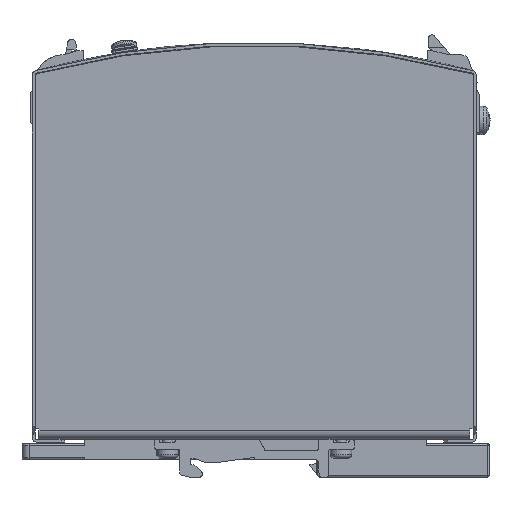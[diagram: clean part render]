
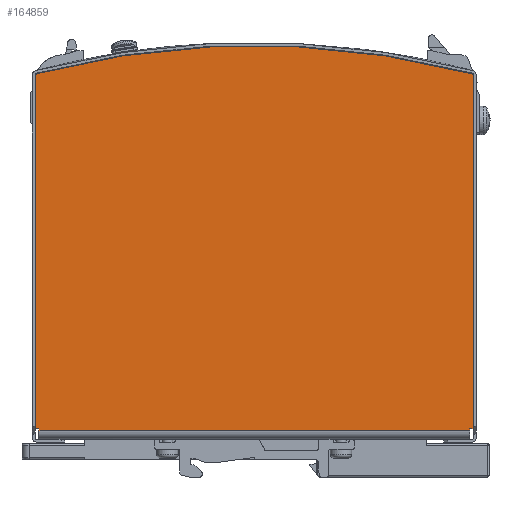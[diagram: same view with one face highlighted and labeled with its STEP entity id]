
A CAD part, front view. The second image highlights one B-rep face of the part: STEP entity #164859.
In plain terms, the highlighted planar face has unit normal (0, -1, 0).
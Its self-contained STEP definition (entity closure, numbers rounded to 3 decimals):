
#164188=CARTESIAN_POINT('',(60.15,-30.,3.));
#164189=VERTEX_POINT('',#164188);
#164196=CARTESIAN_POINT('',(60.15,-30.0,2.5));
#164197=VERTEX_POINT('',#164196);
#164198=CARTESIAN_POINT('',(60.15,-30.0,2.5));
#164199=DIRECTION('',(0.0,0.,1.0));
#164200=VECTOR('',#164199,0.5);
#164201=LINE('',#164198,#164200);
#164202=EDGE_CURVE('',#164197,#164189,#164201,.T.);
#164434=CARTESIAN_POINT('',(-60.15,-30.0,2.5));
#164435=VERTEX_POINT('',#164434);
#164443=CARTESIAN_POINT('',(-60.15,-30.,3.));
#164444=VERTEX_POINT('',#164443);
#164445=CARTESIAN_POINT('',(-60.15,-30.,3.));
#164446=DIRECTION('',(0.0,0.0,-1.0));
#164447=VECTOR('',#164446,0.5);
#164448=LINE('',#164445,#164447);
#164449=EDGE_CURVE('',#164444,#164435,#164448,.T.);
#164641=CARTESIAN_POINT('',(60.15,-30.0,2.5));
#164642=DIRECTION('',(-1.0,0.0,0.0));
#164643=VECTOR('',#164642,120.3);
#164644=LINE('',#164641,#164643);
#164645=EDGE_CURVE('',#164197,#164435,#164644,.T.);
#164656=CARTESIAN_POINT('',(61.15,-30.,3.));
#164657=VERTEX_POINT('',#164656);
#164658=CARTESIAN_POINT('',(60.15,-30.,3.));
#164659=DIRECTION('',(1.0,0.,0.0));
#164660=VECTOR('',#164659,1.);
#164661=LINE('',#164658,#164660);
#164662=EDGE_CURVE('',#164189,#164657,#164661,.T.);
#164799=CARTESIAN_POINT('',(-61.15,-30.0,1.5));
#164800=DIRECTION('',(0.0,-1.0,0.0));
#164801=DIRECTION('',(0.0,0.0,-1.0));
#164802=AXIS2_PLACEMENT_3D('',#164799,#164800,#164801);
#164803=PLANE('',#164802);
#164804=ORIENTED_EDGE('',*,*,#164202,.T.);
#164805=ORIENTED_EDGE('',*,*,#164662,.T.);
#164806=CARTESIAN_POINT('',(61.15,-30.,101.693));
#164807=VERTEX_POINT('',#164806);
#164808=CARTESIAN_POINT('',(61.15,-30.,3.));
#164809=DIRECTION('',(0.0,0.0,1.0));
#164810=VECTOR('',#164809,98.693);
#164811=LINE('',#164808,#164810);
#164812=EDGE_CURVE('',#164657,#164807,#164811,.T.);
#164813=ORIENTED_EDGE('',*,*,#164812,.T.);
#164814=CARTESIAN_POINT('',(60.777,-30.,102.177));
#164815=VERTEX_POINT('',#164814);
#164816=CARTESIAN_POINT('',(60.65,-30.,101.693));
#164817=DIRECTION('',(0.0,-1.0,0.0));
#164818=DIRECTION('',(0.0,0.0,-1.0));
#164819=AXIS2_PLACEMENT_3D('',#164816,#164817,#164818);
#164820=CIRCLE('',#164819,0.5);
#164821=EDGE_CURVE('',#164807,#164815,#164820,.T.);
#164822=ORIENTED_EDGE('',*,*,#164821,.T.);
#164823=CARTESIAN_POINT('',(-60.777,-30.,102.177));
#164824=VERTEX_POINT('',#164823);
#164825=CARTESIAN_POINT('',(0.,-30.,-130.0));
#164826=DIRECTION('',(0.0,1.0,0.0));
#164827=DIRECTION('',(0.0,0.0,-1.0));
#164828=AXIS2_PLACEMENT_3D('',#164825,#164826,#164827);
#164829=CIRCLE('',#164828,240.0);
#164830=EDGE_CURVE('',#164824,#164815,#164829,.T.);
#164831=ORIENTED_EDGE('',*,*,#164830,.F.);
#164832=CARTESIAN_POINT('',(-61.15,-30.,101.693));
#164833=VERTEX_POINT('',#164832);
#164834=CARTESIAN_POINT('',(-60.65,-30.,101.693));
#164835=DIRECTION('',(0.0,-1.0,0.0));
#164836=DIRECTION('',(0.0,0.0,-1.0));
#164837=AXIS2_PLACEMENT_3D('',#164834,#164835,#164836);
#164838=CIRCLE('',#164837,0.5);
#164839=EDGE_CURVE('',#164824,#164833,#164838,.T.);
#164840=ORIENTED_EDGE('',*,*,#164839,.T.);
#164841=CARTESIAN_POINT('',(-61.15,-30.,3.));
#164842=VERTEX_POINT('',#164841);
#164843=CARTESIAN_POINT('',(-61.15,-30.,101.693));
#164844=DIRECTION('',(0.0,0.0,-1.0));
#164845=VECTOR('',#164844,98.693);
#164846=LINE('',#164843,#164845);
#164847=EDGE_CURVE('',#164833,#164842,#164846,.T.);
#164848=ORIENTED_EDGE('',*,*,#164847,.T.);
#164849=CARTESIAN_POINT('',(-61.15,-30.,3.));
#164850=DIRECTION('',(1.0,0.,0.));
#164851=VECTOR('',#164850,1.0);
#164852=LINE('',#164849,#164851);
#164853=EDGE_CURVE('',#164842,#164444,#164852,.T.);
#164854=ORIENTED_EDGE('',*,*,#164853,.T.);
#164855=ORIENTED_EDGE('',*,*,#164449,.T.);
#164856=ORIENTED_EDGE('',*,*,#164645,.F.);
#164857=EDGE_LOOP('',(#164804,#164805,#164813,#164822,#164831,#164840,#164848,#164854,#164855,#164856));
#164858=FACE_OUTER_BOUND('',#164857,.T.);
#164859=ADVANCED_FACE('',(#164858),#164803,.T.);
